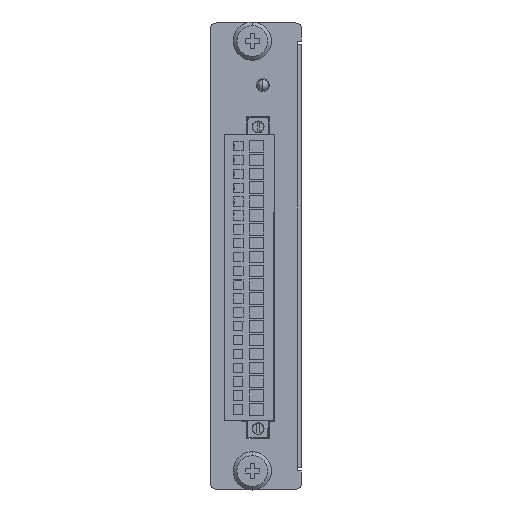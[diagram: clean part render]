
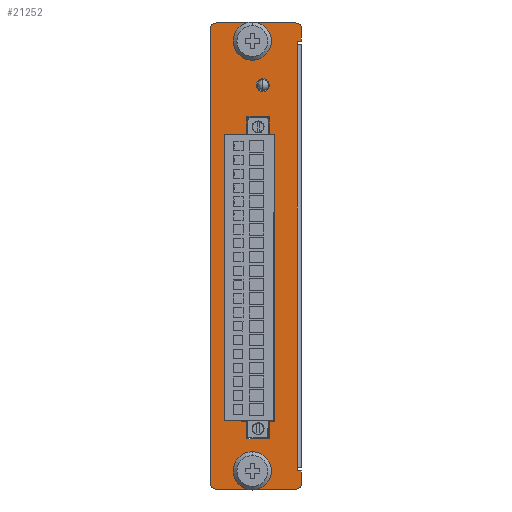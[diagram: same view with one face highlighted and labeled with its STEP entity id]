
A CAD part, top view. The second image highlights one B-rep face of the part: STEP entity #21252.
In plain terms, the highlighted planar face has unit normal (0, 0, 1).
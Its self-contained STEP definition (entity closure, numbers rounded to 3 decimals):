
#1988=DIRECTION('',(0.,-1.,0.));
#1989=VECTOR('',#1988,125.2);
#1990=CARTESIAN_POINT('',(-17.4,62.6,68.5));
#1991=LINE('',#1990,#1989);
#1992=CARTESIAN_POINT('',(-15.9,62.6,68.5));
#1993=DIRECTION('',(0.,0.,1.));
#1994=DIRECTION('',(0.,1.,0.));
#1995=AXIS2_PLACEMENT_3D('',#1992,#1993,#1994);
#1997=DIRECTION('',(-1.,0.,0.));
#1998=VECTOR('',#1997,22.);
#1999=CARTESIAN_POINT('',(6.1,64.1,68.5));
#2000=LINE('',#1999,#1998);
#2001=CARTESIAN_POINT('',(6.1,62.6,68.5));
#2002=DIRECTION('',(0.,0.,1.));
#2003=DIRECTION('',(1.,0.,0.));
#2004=AXIS2_PLACEMENT_3D('',#2001,#2002,#2003);
#2006=DIRECTION('',(0.,1.,0.));
#2007=VECTOR('',#2006,3.5);
#2008=CARTESIAN_POINT('',(7.6,59.1,68.5));
#2009=LINE('',#2008,#2007);
#2010=DIRECTION('',(1.,0.,0.));
#2011=VECTOR('',#2010,1.2);
#2012=CARTESIAN_POINT('',(6.4,59.1,68.5));
#2013=LINE('',#2012,#2011);
#2014=DIRECTION('',(0.,1.,0.));
#2015=VECTOR('',#2014,1.);
#2016=CARTESIAN_POINT('',(6.4,58.1,68.5));
#2017=LINE('',#2016,#2015);
#2018=DIRECTION('',(0.,1.,0.));
#2019=VECTOR('',#2018,1.);
#2020=CARTESIAN_POINT('',(6.4,-59.1,68.5));
#2021=LINE('',#2020,#2019);
#2022=DIRECTION('',(0.,1.,0.));
#2023=VECTOR('',#2022,3.5);
#2024=CARTESIAN_POINT('',(7.6,-62.6,68.5));
#2025=LINE('',#2024,#2023);
#2026=CARTESIAN_POINT('',(6.1,-62.6,68.5));
#2027=DIRECTION('',(0.,0.,1.));
#2028=DIRECTION('',(0.,-1.,0.));
#2029=AXIS2_PLACEMENT_3D('',#2026,#2027,#2028);
#2031=DIRECTION('',(1.,0.,0.));
#2032=VECTOR('',#2031,22.);
#2033=CARTESIAN_POINT('',(-15.9,-64.1,68.5));
#2034=LINE('',#2033,#2032);
#2035=CARTESIAN_POINT('',(-15.9,-62.6,68.5));
#2036=DIRECTION('',(0.,0.,1.));
#2037=DIRECTION('',(-1.,0.,0.));
#2038=AXIS2_PLACEMENT_3D('',#2035,#2036,#2037);
#2040=CARTESIAN_POINT('',(-3.,47.,68.5));
#2041=DIRECTION('',(0.,0.,-1.));
#2042=DIRECTION('',(0.,1.,0.));
#2043=AXIS2_PLACEMENT_3D('',#2040,#2041,#2042);
#2045=CARTESIAN_POINT('',(-3.,47.,68.5));
#2046=DIRECTION('',(0.,0.,-1.));
#2047=DIRECTION('',(0.,-1.,0.));
#2048=AXIS2_PLACEMENT_3D('',#2045,#2046,#2047);
#2050=DIRECTION('',(1.,0.,0.));
#2051=VECTOR('',#2050,1.53);
#2052=CARTESIAN_POINT('',(-1.28,33.45,68.5));
#2053=LINE('',#2052,#2051);
#2054=DIRECTION('',(0.,-1.,0.));
#2055=VECTOR('',#2054,4.85);
#2056=CARTESIAN_POINT('',(-1.28,38.3,68.5));
#2057=LINE('',#2056,#2055);
#2058=DIRECTION('',(1.,0.,0.));
#2059=VECTOR('',#2058,6.1);
#2060=CARTESIAN_POINT('',(-7.38,38.3,68.5));
#2061=LINE('',#2060,#2059);
#2062=DIRECTION('',(0.,1.,0.));
#2063=VECTOR('',#2062,4.85);
#2064=CARTESIAN_POINT('',(-7.38,33.45,68.5));
#2065=LINE('',#2064,#2063);
#2066=DIRECTION('',(1.,0.,0.));
#2067=VECTOR('',#2066,1.47);
#2068=CARTESIAN_POINT('',(-8.85,33.45,68.5));
#2069=LINE('',#2068,#2067);
#2070=DIRECTION('',(0.,1.,0.));
#2071=VECTOR('',#2070,78.9);
#2072=CARTESIAN_POINT('',(-8.85,-45.45,68.5));
#2073=LINE('',#2072,#2071);
#2074=DIRECTION('',(-1.,0.,0.));
#2075=VECTOR('',#2074,1.47);
#2076=CARTESIAN_POINT('',(-7.38,-45.45,68.5));
#2077=LINE('',#2076,#2075);
#2078=DIRECTION('',(0.,1.,0.));
#2079=VECTOR('',#2078,4.85);
#2080=CARTESIAN_POINT('',(-7.38,-50.3,68.5));
#2081=LINE('',#2080,#2079);
#2082=DIRECTION('',(-1.,0.,0.));
#2083=VECTOR('',#2082,6.1);
#2084=CARTESIAN_POINT('',(-1.28,-50.3,68.5));
#2085=LINE('',#2084,#2083);
#2086=DIRECTION('',(0.,-1.,0.));
#2087=VECTOR('',#2086,4.85);
#2088=CARTESIAN_POINT('',(-1.28,-45.45,68.5));
#2089=LINE('',#2088,#2087);
#2090=DIRECTION('',(-1.,0.,0.));
#2091=VECTOR('',#2090,1.53);
#2092=CARTESIAN_POINT('',(0.25,-45.45,68.5));
#2093=LINE('',#2092,#2091);
#2094=DIRECTION('',(0.,-1.,0.));
#2095=VECTOR('',#2094,78.9);
#2096=CARTESIAN_POINT('',(0.25,33.45,68.5));
#2097=LINE('',#2096,#2095);
#2098=CARTESIAN_POINT('',(-5.9,59.1,68.5));
#2099=DIRECTION('',(0.,0.,1.));
#2100=DIRECTION('',(-1.,0.,0.));
#2101=AXIS2_PLACEMENT_3D('',#2098,#2099,#2100);
#2103=CARTESIAN_POINT('',(-5.9,59.1,68.5));
#2104=DIRECTION('',(0.,0.,1.));
#2105=DIRECTION('',(1.,0.,0.));
#2106=AXIS2_PLACEMENT_3D('',#2103,#2104,#2105);
#2108=CARTESIAN_POINT('',(-5.9,-59.1,68.5));
#2109=DIRECTION('',(0.,0.,1.));
#2110=DIRECTION('',(-1.,0.,0.));
#2111=AXIS2_PLACEMENT_3D('',#2108,#2109,#2110);
#2113=CARTESIAN_POINT('',(-5.9,-59.1,68.5));
#2114=DIRECTION('',(0.,0.,1.));
#2115=DIRECTION('',(1.,0.,0.));
#2116=AXIS2_PLACEMENT_3D('',#2113,#2114,#2115);
#2248=DIRECTION('',(1.,0.,0.));
#2249=VECTOR('',#2248,1.2);
#2250=CARTESIAN_POINT('',(6.4,-59.1,68.5));
#2251=LINE('',#2250,#2249);
#2399=DIRECTION('',(0.,-1.,0.));
#2400=VECTOR('',#2399,116.2);
#2401=CARTESIAN_POINT('',(6.4,58.1,68.5));
#2402=LINE('',#2401,#2400);
#18204=CARTESIAN_POINT('',(7.6,-59.1,68.5));
#18206=VERTEX_POINT('',#18204);
#18208=CARTESIAN_POINT('',(-17.4,62.6,68.5));
#18209=CARTESIAN_POINT('',(-17.4,-62.6,68.5));
#18210=VERTEX_POINT('',#18208);
#18211=VERTEX_POINT('',#18209);
#18214=CARTESIAN_POINT('',(6.4,-59.1,68.5));
#18215=VERTEX_POINT('',#18214);
#18216=CARTESIAN_POINT('',(-15.9,64.1,68.5));
#18218=VERTEX_POINT('',#18216);
#18220=CARTESIAN_POINT('',(-15.9,-64.1,68.5));
#18221=VERTEX_POINT('',#18220);
#18222=CARTESIAN_POINT('',(7.6,-62.6,68.5));
#18223=VERTEX_POINT('',#18222);
#18230=CARTESIAN_POINT('',(6.1,-64.1,68.5));
#18231=VERTEX_POINT('',#18230);
#18232=CARTESIAN_POINT('',(6.1,64.1,68.5));
#18233=VERTEX_POINT('',#18232);
#18236=CARTESIAN_POINT('',(6.4,-58.1,68.5));
#18237=VERTEX_POINT('',#18236);
#18240=CARTESIAN_POINT('',(-3.,48.75,68.5));
#18241=CARTESIAN_POINT('',(-3.,45.25,68.5));
#18242=VERTEX_POINT('',#18240);
#18243=VERTEX_POINT('',#18241);
#18246=CARTESIAN_POINT('',(7.6,62.6,68.5));
#18247=VERTEX_POINT('',#18246);
#18252=CARTESIAN_POINT('',(6.4,58.1,68.5));
#18253=VERTEX_POINT('',#18252);
#18254=CARTESIAN_POINT('',(-1.28,33.45,68.5));
#18255=CARTESIAN_POINT('',(0.25,33.45,68.5));
#18256=VERTEX_POINT('',#18254);
#18257=VERTEX_POINT('',#18255);
#18262=CARTESIAN_POINT('',(7.6,59.1,68.5));
#18263=VERTEX_POINT('',#18262);
#18270=CARTESIAN_POINT('',(6.4,59.1,68.5));
#18271=VERTEX_POINT('',#18270);
#18274=CARTESIAN_POINT('',(0.25,-45.45,68.5));
#18275=VERTEX_POINT('',#18274);
#18276=CARTESIAN_POINT('',(-1.28,38.3,68.5));
#18277=VERTEX_POINT('',#18276);
#18292=CARTESIAN_POINT('',(-1.28,-45.45,68.5));
#18293=VERTEX_POINT('',#18292);
#18294=CARTESIAN_POINT('',(-7.38,38.3,68.5));
#18295=VERTEX_POINT('',#18294);
#18300=CARTESIAN_POINT('',(-1.28,-50.3,68.5));
#18301=VERTEX_POINT('',#18300);
#18304=CARTESIAN_POINT('',(-7.38,33.45,68.5));
#18305=VERTEX_POINT('',#18304);
#18318=CARTESIAN_POINT('',(-7.38,-50.3,68.5));
#18319=VERTEX_POINT('',#18318);
#18322=CARTESIAN_POINT('',(-8.85,33.45,68.5));
#18323=VERTEX_POINT('',#18322);
#18334=CARTESIAN_POINT('',(-7.38,-45.45,68.5));
#18335=VERTEX_POINT('',#18334);
#18338=CARTESIAN_POINT('',(-8.85,-45.45,68.5));
#18339=VERTEX_POINT('',#18338);
#19528=CARTESIAN_POINT('',(-9.05,59.1,68.5));
#19529=CARTESIAN_POINT('',(-2.75,59.1,68.5));
#19530=VERTEX_POINT('',#19528);
#19531=VERTEX_POINT('',#19529);
#19536=CARTESIAN_POINT('',(-9.05,-59.1,68.5));
#19537=CARTESIAN_POINT('',(-2.75,-59.1,68.5));
#19538=VERTEX_POINT('',#19536);
#19539=VERTEX_POINT('',#19537);
#21174=CARTESIAN_POINT('',(0.,0.,68.5));
#21175=DIRECTION('',(0.,0.,1.));
#21176=DIRECTION('',(1.,0.,0.));
#21177=AXIS2_PLACEMENT_3D('',#21174,#21175,#21176);
#21178=PLANE('',#21177);
#21180=ORIENTED_EDGE('',*,*,#21179,.F.);
#21182=ORIENTED_EDGE('',*,*,#21181,.F.);
#21184=ORIENTED_EDGE('',*,*,#21183,.F.);
#21186=ORIENTED_EDGE('',*,*,#21185,.F.);
#21188=ORIENTED_EDGE('',*,*,#21187,.F.);
#21190=ORIENTED_EDGE('',*,*,#21189,.F.);
#21191=ORIENTED_EDGE('',*,*,#21158,.F.);
#21193=ORIENTED_EDGE('',*,*,#21192,.T.);
#21195=ORIENTED_EDGE('',*,*,#21194,.F.);
#21197=ORIENTED_EDGE('',*,*,#21196,.T.);
#21199=ORIENTED_EDGE('',*,*,#21198,.F.);
#21201=ORIENTED_EDGE('',*,*,#21200,.F.);
#21203=ORIENTED_EDGE('',*,*,#21202,.F.);
#21205=ORIENTED_EDGE('',*,*,#21204,.F.);
#21206=EDGE_LOOP('',(#21180,#21182,#21184,#21186,#21188,#21190,#21191,#21193,
#21195,#21197,#21199,#21201,#21203,#21205));
#21207=FACE_OUTER_BOUND('',#21206,.F.);
#21209=ORIENTED_EDGE('',*,*,#21208,.F.);
#21211=ORIENTED_EDGE('',*,*,#21210,.F.);
#21212=EDGE_LOOP('',(#21209,#21211));
#21213=FACE_BOUND('',#21212,.F.);
#21215=ORIENTED_EDGE('',*,*,#21214,.F.);
#21217=ORIENTED_EDGE('',*,*,#21216,.F.);
#21219=ORIENTED_EDGE('',*,*,#21218,.F.);
#21221=ORIENTED_EDGE('',*,*,#21220,.F.);
#21223=ORIENTED_EDGE('',*,*,#21222,.F.);
#21225=ORIENTED_EDGE('',*,*,#21224,.F.);
#21227=ORIENTED_EDGE('',*,*,#21226,.F.);
#21229=ORIENTED_EDGE('',*,*,#21228,.F.);
#21231=ORIENTED_EDGE('',*,*,#21230,.F.);
#21233=ORIENTED_EDGE('',*,*,#21232,.F.);
#21235=ORIENTED_EDGE('',*,*,#21234,.F.);
#21237=ORIENTED_EDGE('',*,*,#21236,.F.);
#21238=EDGE_LOOP('',(#21215,#21217,#21219,#21221,#21223,#21225,#21227,#21229,
#21231,#21233,#21235,#21237));
#21239=FACE_BOUND('',#21238,.F.);
#21241=ORIENTED_EDGE('',*,*,#21240,.T.);
#21243=ORIENTED_EDGE('',*,*,#21242,.T.);
#21244=EDGE_LOOP('',(#21241,#21243));
#21245=FACE_BOUND('',#21244,.F.);
#21247=ORIENTED_EDGE('',*,*,#21246,.T.);
#21249=ORIENTED_EDGE('',*,*,#21248,.T.);
#21250=EDGE_LOOP('',(#21247,#21249));
#21251=FACE_BOUND('',#21250,.F.);
#1996=CIRCLE('',#1995,1.5);
#2005=CIRCLE('',#2004,1.5);
#2030=CIRCLE('',#2029,1.5);
#2039=CIRCLE('',#2038,1.5);
#2044=CIRCLE('',#2043,1.75);
#2049=CIRCLE('',#2048,1.75);
#2102=CIRCLE('',#2101,3.15);
#2107=CIRCLE('',#2106,3.15);
#2112=CIRCLE('',#2111,3.15);
#2117=CIRCLE('',#2116,3.15);
#21158=EDGE_CURVE('',#18253,#18271,#2017,.T.);
#21179=EDGE_CURVE('',#18210,#18211,#1991,.T.);
#21181=EDGE_CURVE('',#18218,#18210,#1996,.T.);
#21183=EDGE_CURVE('',#18233,#18218,#2000,.T.);
#21185=EDGE_CURVE('',#18247,#18233,#2005,.T.);
#21187=EDGE_CURVE('',#18263,#18247,#2009,.T.);
#21189=EDGE_CURVE('',#18271,#18263,#2013,.T.);
#21192=EDGE_CURVE('',#18253,#18237,#2402,.T.);
#21194=EDGE_CURVE('',#18215,#18237,#2021,.T.);
#21196=EDGE_CURVE('',#18215,#18206,#2251,.T.);
#21198=EDGE_CURVE('',#18223,#18206,#2025,.T.);
#21200=EDGE_CURVE('',#18231,#18223,#2030,.T.);
#21202=EDGE_CURVE('',#18221,#18231,#2034,.T.);
#21204=EDGE_CURVE('',#18211,#18221,#2039,.T.);
#21208=EDGE_CURVE('',#18242,#18243,#2044,.T.);
#21210=EDGE_CURVE('',#18243,#18242,#2049,.T.);
#21214=EDGE_CURVE('',#18256,#18257,#2053,.T.);
#21216=EDGE_CURVE('',#18277,#18256,#2057,.T.);
#21218=EDGE_CURVE('',#18295,#18277,#2061,.T.);
#21220=EDGE_CURVE('',#18305,#18295,#2065,.T.);
#21222=EDGE_CURVE('',#18323,#18305,#2069,.T.);
#21224=EDGE_CURVE('',#18339,#18323,#2073,.T.);
#21226=EDGE_CURVE('',#18335,#18339,#2077,.T.);
#21228=EDGE_CURVE('',#18319,#18335,#2081,.T.);
#21230=EDGE_CURVE('',#18301,#18319,#2085,.T.);
#21232=EDGE_CURVE('',#18293,#18301,#2089,.T.);
#21234=EDGE_CURVE('',#18275,#18293,#2093,.T.);
#21236=EDGE_CURVE('',#18257,#18275,#2097,.T.);
#21240=EDGE_CURVE('',#19530,#19531,#2102,.T.);
#21242=EDGE_CURVE('',#19531,#19530,#2107,.T.);
#21246=EDGE_CURVE('',#19538,#19539,#2112,.T.);
#21248=EDGE_CURVE('',#19539,#19538,#2117,.T.);
#21252=ADVANCED_FACE('',(#21207,#21213,#21239,#21245,#21251),#21178,.T.);
